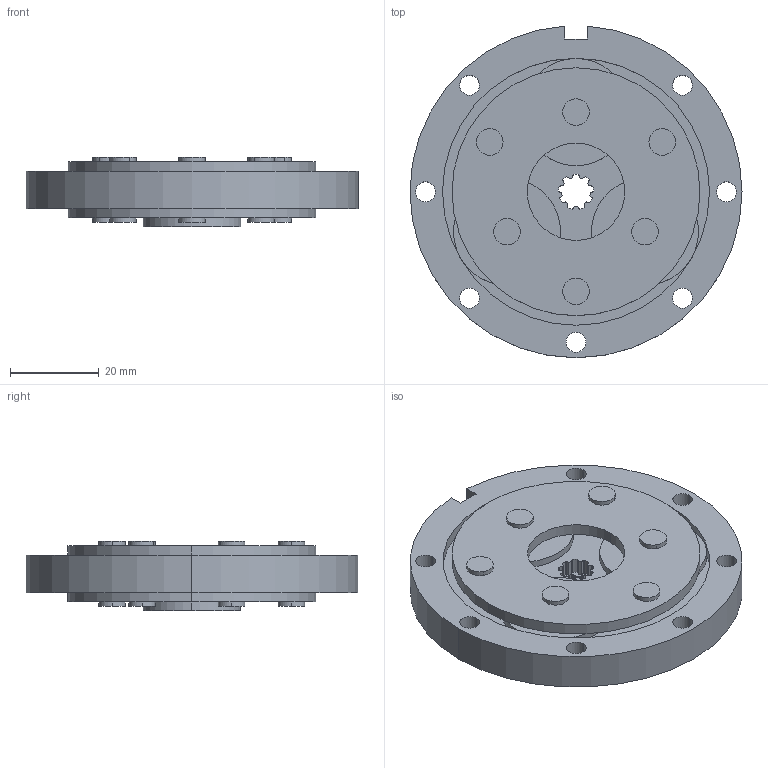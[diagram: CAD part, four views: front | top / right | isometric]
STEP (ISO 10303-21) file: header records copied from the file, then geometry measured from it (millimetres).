
FILE_DESCRIPTION (( 'STEP AP203' ), '1' );
FILE_NAME ('LGU75-5MID.step', '2021-07-23T02:28:43', ( '' ), ( '' ), 'SwSTEP 2.0', 'SolidWorks 2021', '' );
FILE_SCHEMA (( 'CONFIG_CONTROL_DESIGN' ));
Length unit declared in the file: millimetre
Products named in the file (1): LGU75-5MID
Bounding box: 75 x 74.92 x 15.7 mm (x, y, z)
Volume: 38893.2 mm3; surface area: 23346.3 mm2
Topology: 1 solids, 1 shells, 319 faces, 876 edges, 584 vertices
Faces by surface type: cylinder 289, plane 30
Entity records: 10621 total; most frequent: DIRECTION 2094, CARTESIAN_POINT 1780, ORIENTED_EDGE 1752, AXIS2_PLACEMENT_3D 898, EDGE_CURVE 876, VERTEX_POINT 584, CIRCLE 578, EDGE_LOOP 372
